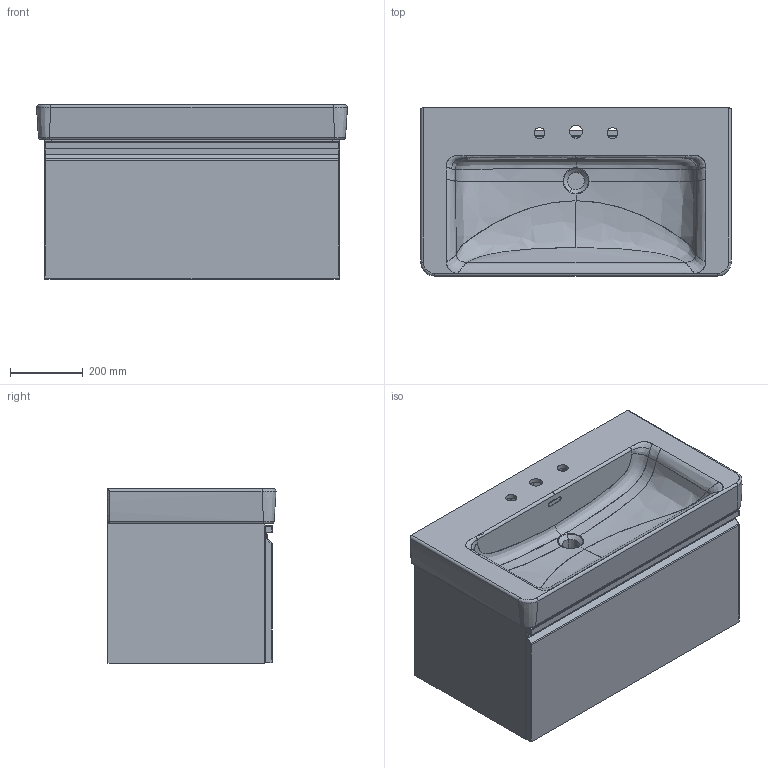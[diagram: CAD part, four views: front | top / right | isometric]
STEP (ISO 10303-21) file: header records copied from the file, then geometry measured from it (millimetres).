
FILE_DESCRIPTION(/* description */ (''),/* implementation_level */ '2;1');
FILE_NAME(/* name */ 'C:\Users\User33\Desktop\Pro S\3D01_483501.stp',/* time_stamp */ '2018-05-10T13:06:02+02:00',/* author */ ('User33'),/* organization */ (''),/* preprocessor_version */ 'ST-DEVELOPER v16.13',/* originating_system */ 'Autodesk Inventor 2018',/* authorisation */ '');
FILE_SCHEMA (('AUTOMOTIVE_DESIGN { 1 0 10303 214 3 1 1 }'));
Products named in the file (20): Assieme6; Parte293; Parte301; Parte303; Parte305; Parte307; Parte309; Parte311; Parte325; Parte327; Parte329; Parte331; Parte333; Parte343; Parte345; Parte347; Parte349; Parte351; Parte361; Parte363
Assembly tree (19 placements, depth 2):
  Assieme6
    Parte293
    Parte301
    Parte303
    Parte305
    Parte307
    Parte309
    Parte311
    Parte325
    Parte327
    Parte329
    Parte331
    Parte333
    Parte343
    Parte345
    Parte347
    Parte349
    Parte351
    Parte361
    Parte363
Bounding box: 850.77 x 460.42 x 478 mm (x, y, z)
Volume: 24671953 mm3; surface area: 4640068.5 mm2
Topology: 18 solids, 511 shells, 1000 faces, 3625 edges, 3174 vertices
Faces by surface type: plane 423, cylinder 277, bspline 212, torus 51, sphere 24, cone 13
Full cylindrical faces by diameter (mm): 2.5 x2, 4 x8, 4.1 x2, 5.1 x2, 6 x6, 7.2 x2, 10 x2, 12 x2, 12.5 x2
Entity records: 100885 total; most frequent: CARTESIAN_POINT 69805, DIRECTION 5787, ORIENTED_EDGE 4867, EDGE_CURVE 3588, VERTEX_POINT 3173, AXIS2_PLACEMENT_3D 2090, LINE 1607, VECTOR 1607
